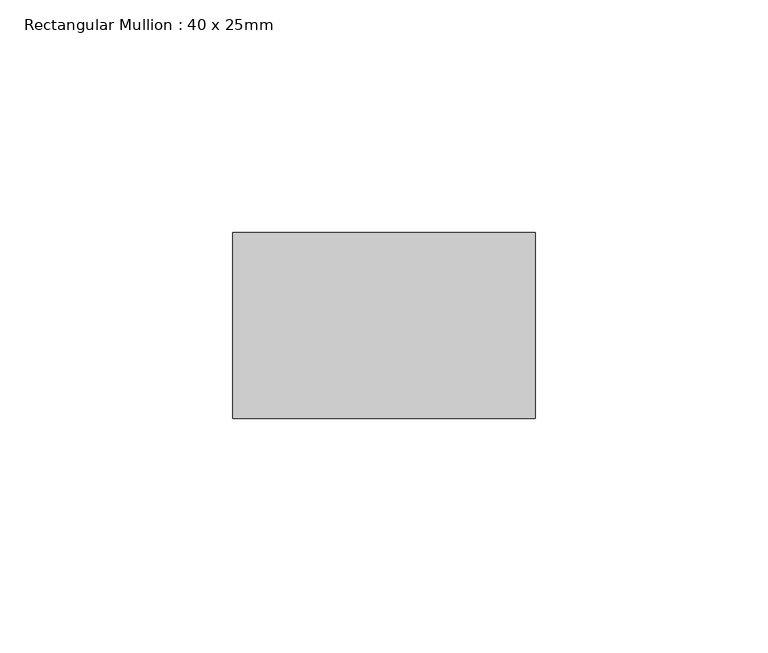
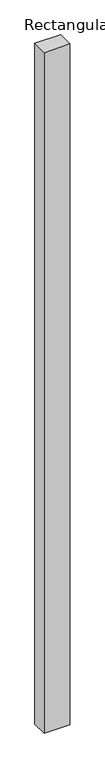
"""IFC4 building model written with IfcOpenShell, lengths in millimetres: member geometry, Rectangular Mullion : 40 x 25mm."""

from ifc_helpers import new_model, si_unit, frame, origin, place, context, project, spatial, polyline, outline, extrude, source, transform, mapped, element, save


def rectangular_mullion_40_x_25mm_890d15aa(model_context):
    return source(origin(), model_context, "Body", "SweptSolid", [
        extrude(outline(polyline([(0.0, -20.0), (0.0, -60.0), (-65.0, -60.0), (-65.0, -20.0), (0.0, -20.0)])), frame((0.0, 0.0, -1817.1), z_axis=(0.0, 0.0, 1.0), x_axis=(1.0, 0.0, 0.0)), (0.0, 0.0, 1.0), 1817.1),
    ])


if __name__ == "__main__":
    model = new_model("IFC4")
    model_context = context("Model", 3, world=origin())
    ifc_project = project(units=[si_unit("LENGTHUNIT", "METRE", prefix="MILLI")], contexts=[model_context])
    site = spatial("IfcSite", under=ifc_project)
    building = spatial("IfcBuilding", under=site)
    placement = place(None, origin())
    rectangular_mullion_40_x_25mm_shape = rectangular_mullion_40_x_25mm_890d15aa(model_context)
    element("IfcMember", 1, ObjectType="Rectangular Mullion : 40 x 25mm", at=placement, inside=building, context=model_context, shape_type="MappedRepresentation", body=[
        mapped(rectangular_mullion_40_x_25mm_shape, transform((0.0, 0.0, 0.0), x_axis=(1.0, 0.0, 0.0), y_axis=(0.0, 1.0, 0.0), z_axis=(0.0, 0.0, 1.0))),
    ])
    save(model, "model.ifc")
